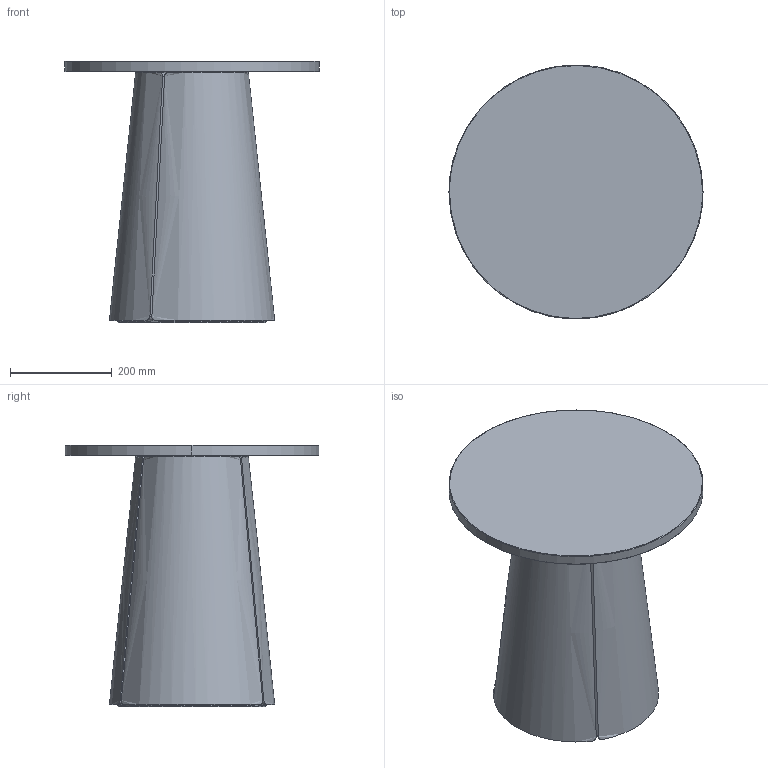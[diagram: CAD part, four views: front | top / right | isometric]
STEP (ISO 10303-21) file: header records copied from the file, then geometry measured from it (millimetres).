
FILE_DESCRIPTION(/* description */ (''),/* implementation_level */ '2;1');
FILE_NAME(/* name */ '20190222_BENT_side table_small',/* time_stamp */ '2019-02-22T11:18:45+01:00',/* author */ (''),/* organization */ (''),/* preprocessor_version */ 'ST-DEVELOPER v15',/* originating_system */ '',/* authorisation */ '');
FILE_SCHEMA (('AUTOMOTIVE_DESIGN'));
Length unit declared in the file: millimetre
Products named in the file (1): Document
Bounding box: 500 x 499.54 x 514 mm (x, y, z)
Volume: 12079008.4 mm3; surface area: 1495002.2 mm2
Topology: 6 solids, 6 shells, 46 faces, 98 edges, 64 vertices
Faces by surface type: bspline 40, plane 6
Entity records: 4905 total; most frequent: CARTESIAN_POINT 4256, ORIENTED_EDGE 196, EDGE_CURVE 98, VERTEX_POINT 64, B_SPLINE_CURVE_WITH_KNOTS 56, ADVANCED_FACE 46, FACE_OUTER_BOUND 46, EDGE_LOOP 46
